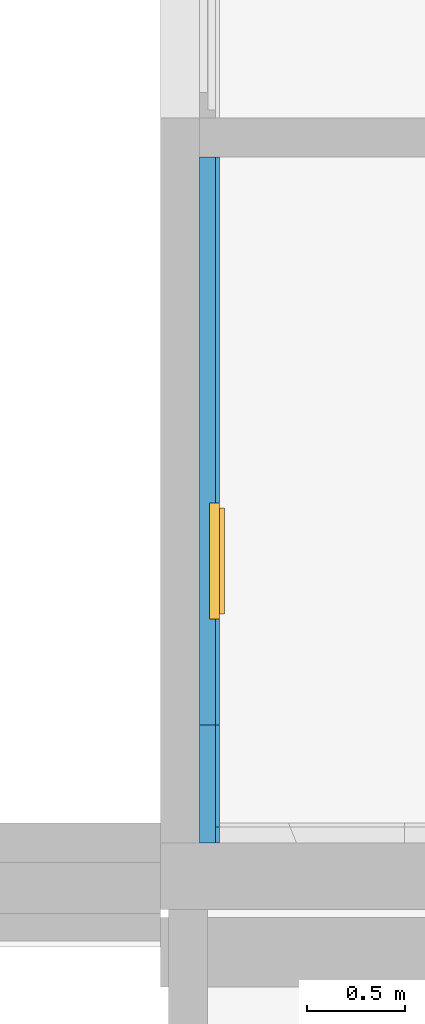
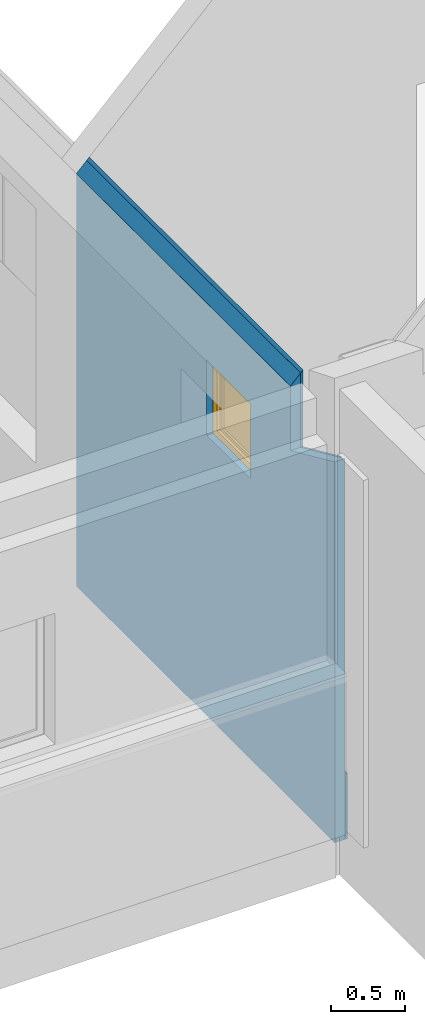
# One storey, part 27 of 34: 2 building element parts, 1 window, 1 opening, 1 element without a shape of its own.
"""IFC2X3 building model written with IfcOpenShell, lengths in metres."""

from ifc_helpers import new_model, entity, si_unit, converted_unit, derived_unit, money_unit, direction, frame, origin_with_axes, origin_2d_with_axis, place, context, subcontext, project, spatial, polyline, rectangle, outline, extrude, boolean, clip, bounded_halfspace, open_shell, faceted_brep, surface_model, material, type_object, element, fill, aggregate, save


model = new_model("IFC2X3")

# Units and contexts
model_context = context("Model", 3, precision=1e-05, world=origin_with_axes(), true_north=direction((0.0, 1.0)))
body_context = subcontext(model_context, "Body", "Model", "MODEL_VIEW")
ifc_project = project(units=[si_unit("LENGTHUNIT", "METRE"), si_unit("AREAUNIT", "SQUARE_METRE"), si_unit("VOLUMEUNIT", "CUBIC_METRE"), converted_unit("PLANEANGLEUNIT", "DEGREE", entity("IfcPlaneAngleMeasure", 0.0174532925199), si_unit("PLANEANGLEUNIT", "RADIAN"), dimensions=[0, 0, 0, 0, 0, 0, 0]), money_unit("CHF"), converted_unit("TIMEUNIT", "Year", entity("IfcTimeMeasure", 31556926.0), si_unit("TIMEUNIT", "SECOND"), dimensions=[0, 0, 1, 0, 0, 0, 0]), si_unit("MASSUNIT", "GRAM", prefix="KILO"), si_unit("THERMODYNAMICTEMPERATUREUNIT", "DEGREE_CELSIUS"), si_unit("LUMINOUSINTENSITYUNIT", "LUMEN"), si_unit("ENERGYUNIT", "JOULE", prefix="MEGA"), derived_unit("THERMALCONDUCTANCEUNIT", [(si_unit("POWERUNIT", "WATT"), 1), (si_unit("LENGTHUNIT", "METRE"), -1), (si_unit("THERMODYNAMICTEMPERATUREUNIT", "KELVIN"), -1)]), derived_unit("SPECIFICHEATCAPACITYUNIT", [(si_unit("ENERGYUNIT", "JOULE"), 1), (si_unit("MASSUNIT", "GRAM", prefix="KILO"), -1), (si_unit("THERMODYNAMICTEMPERATUREUNIT", "KELVIN"), -1)]), derived_unit("MASSDENSITYUNIT", [(si_unit("MASSUNIT", "GRAM", prefix="KILO"), 1), (si_unit("VOLUMEUNIT", "CUBIC_METRE"), -1)])], contexts=[model_context])

# Site, building, storey
site_placement = place(None, origin_with_axes())
site = spatial("IfcSite", under=ifc_project, at=site_placement, Name="Site", CompositionType="ELEMENT")
building_placement = place(site_placement, origin_with_axes())
building = spatial("IfcBuilding", under=site, at=building_placement, Name="Bâtiment", CompositionType="ELEMENT")
storey_placement = place(building_placement, origin_with_axes())
storey = spatial("IfcBuildingStorey", under=building, at=storey_placement, Name="RDC", CompositionType="ELEMENT", Elevation=-5.32907e-15)

# Window
window_style = type_object("IfcWindowStyle", Name="Fenêtre 25", ConstructionType="NOTDEFINED", OperationType="SINGLE_PANEL", ParameterTakesPrecedence=False, Sizeable=False)
wall_placement = place(storey_placement, frame((1692.13729001, 194.09004191, 0.0), z_axis=(0.0, 0.0, 1.0), x_axis=(0.0, -1.0, 0.0)))
opening_placement = place(wall_placement, frame((2.055, 0.0, 2.31), z_axis=(0.0, 0.0, 1.0), x_axis=(1.0, 0.0, 0.0)))
window_placement = place(opening_placement, frame((-0.295, 0.0, 0.0), z_axis=(0.0, 0.0, 1.0), x_axis=(1.0, 0.0, 0.0)))
window = element("IfcWindow", 1, at=window_placement, inside=storey, type_object=window_style, Name="Fen-010", OverallHeight=0.62, OverallWidth=0.59, context=body_context, shape_type="SurfaceModel", body=[
    faceted_brep([(0.565, 0.1, 0.57), (0.565, 0.075, 0.57), (0.54, 0.075, 0.57), (0.54, 0.05, 0.57), (0.59, 0.05, 0.57), (0.59, 0.1, 0.57), (0.565, 0.1, 0.05), (0.565, 0.075, 0.05), (0.54, 0.075, 0.05), (0.54, 0.05, 0.05), (0.59, 0.05, 0.05), (0.59, 0.1, 0.05)], [[[0, 1, 2, 3, 4, 5]], [[1, 0, 6, 7]], [[8, 2, 1, 7]], [[2, 8, 9, 3]], [[4, 3, 9, 10]], [[5, 4, 10, 11]], [[6, 0, 5, 11]], [[7, 6, 11, 10, 9, 8]]]),
    faceted_brep([(0.05, 0.075, 0.57), (0.025, 0.075, 0.57), (0.025, 0.1, 0.57), (0.0, 0.1, 0.57), (0.0, 0.05, 0.57), (0.05, 0.05, 0.57), (0.05, 0.075, 0.05), (0.025, 0.075, 0.05), (0.025, 0.1, 0.05), (0.0, 0.1, 0.05), (0.0, 0.05, 0.05), (0.05, 0.05, 0.05)], [[[0, 1, 2, 3, 4, 5]], [[1, 0, 6, 7]], [[8, 2, 1, 7]], [[2, 8, 9, 3]], [[9, 10, 4, 3]], [[10, 11, 5, 4]], [[6, 0, 5, 11]], [[7, 6, 11, 10, 9, 8]]]),
    faceted_brep([(0.05, 0.075, 0.05), (0.025, 0.075, 0.05), (0.025, 0.1, 0.05), (0.0, 0.1, 0.05), (0.0, 0.05, 0.05), (0.05, 0.05, 0.05), (0.54, 0.075, 0.05), (0.565, 0.075, 0.05), (0.565, 0.075, 0.025), (0.025, 0.075, 0.025), (0.025, 0.1, 0.025), (0.565, 0.1, 0.025), (0.565, 0.1, 0.05), (0.59, 0.1, 0.05), (0.59, 0.1, 0.0), (0.0, 0.1, 0.0), (0.0, 0.05, 0.0), (0.59, 0.05, 0.05), (0.54, 0.05, 0.05), (0.59, 0.05, 0.0)], [[[0, 1, 2, 3, 4, 5]], [[1, 0, 6, 7, 8, 9]], [[10, 2, 1, 9]], [[11, 12, 13, 14, 15, 3, 2, 10]], [[15, 16, 4, 3]], [[17, 18, 5, 4, 16, 19]], [[6, 0, 5, 18]], [[7, 6, 18, 17, 13, 12]], [[7, 12, 11, 8]], [[11, 10, 9, 8]], [[13, 17, 19, 14]], [[14, 19, 16, 15]]]),
    faceted_brep([(0.565, 0.1, 0.57), (0.565, 0.1, 0.595), (0.025, 0.1, 0.595), (0.025, 0.1, 0.57), (0.0, 0.1, 0.57), (0.0, 0.1, 0.62), (0.59, 0.1, 0.62), (0.59, 0.1, 0.57), (0.565, 0.075, 0.57), (0.565, 0.075, 0.595), (0.025, 0.075, 0.595), (0.025, 0.075, 0.57), (0.05, 0.075, 0.57), (0.05, 0.05, 0.57), (0.0, 0.05, 0.57), (0.0, 0.05, 0.62), (0.59, 0.05, 0.62), (0.59, 0.05, 0.57), (0.54, 0.05, 0.57), (0.54, 0.075, 0.57)], [[[0, 1, 2, 3, 4, 5, 6, 7]], [[1, 0, 8, 9]], [[2, 1, 9, 10]], [[3, 2, 10, 11]], [[11, 12, 13, 14, 4, 3]], [[4, 14, 15, 5]], [[5, 15, 16, 6]], [[6, 16, 17, 7]], [[8, 0, 7, 17, 18, 19]], [[12, 11, 10, 9, 8, 19]], [[12, 19, 18, 13]], [[14, 13, 18, 17, 16, 15]]]),
    faceted_brep([(0.515, 0.075, 0.545), (0.565, 0.075, 0.545), (0.565, 0.125, 0.545), (0.515, 0.125, 0.545), (0.515, 0.075, 0.075), (0.565, 0.075, 0.075), (0.565, 0.125, 0.075), (0.515, 0.125, 0.075)], [[[0, 1, 2, 3]], [[0, 4, 5, 1]], [[1, 5, 6, 2]], [[3, 2, 6, 7]], [[4, 0, 3, 7]], [[5, 4, 7, 6]]]),
    faceted_brep([(0.075, 0.075, 0.075), (0.025, 0.075, 0.075), (0.025, 0.125, 0.075), (0.075, 0.125, 0.075), (0.075, 0.075, 0.545), (0.025, 0.075, 0.545), (0.025, 0.125, 0.545), (0.075, 0.125, 0.545)], [[[0, 1, 2, 3]], [[0, 4, 5, 1]], [[1, 5, 6, 2]], [[3, 2, 6, 7]], [[4, 0, 3, 7]], [[5, 4, 7, 6]]]),
    faceted_brep([(0.025, 0.075, 0.025), (0.025, 0.075, 0.075), (0.025, 0.125, 0.075), (0.025, 0.125, 0.025), (0.565, 0.075, 0.025), (0.565, 0.075, 0.075), (0.515, 0.075, 0.075), (0.075, 0.075, 0.075), (0.075, 0.125, 0.075), (0.515, 0.125, 0.075), (0.565, 0.125, 0.075), (0.565, 0.125, 0.025)], [[[0, 1, 2, 3]], [[0, 4, 5, 6, 7, 1]], [[1, 7, 8, 2]], [[3, 2, 8, 9, 10, 11]], [[4, 0, 3, 11]], [[5, 4, 11, 10]], [[6, 5, 10, 9]], [[7, 6, 9, 8]]]),
    faceted_brep([(0.565, 0.075, 0.595), (0.565, 0.075, 0.545), (0.565, 0.125, 0.545), (0.565, 0.125, 0.595), (0.025, 0.075, 0.595), (0.025, 0.075, 0.545), (0.075, 0.075, 0.545), (0.515, 0.075, 0.545), (0.515, 0.125, 0.545), (0.075, 0.125, 0.545), (0.025, 0.125, 0.545), (0.025, 0.125, 0.595)], [[[0, 1, 2, 3]], [[0, 4, 5, 6, 7, 1]], [[1, 7, 8, 2]], [[3, 2, 8, 9, 10, 11]], [[4, 0, 3, 11]], [[5, 4, 11, 10]], [[6, 5, 10, 9]], [[7, 6, 9, 8]]]),
    surface_model("IfcShellBasedSurfaceModel", [(0.515, 0.09, 0.075), (0.515, 0.09, 0.545), (0.075, 0.09, 0.545), (0.075, 0.09, 0.075)], [open_shell([[[0, 1, 2, 3]]])]),
    surface_model("IfcShellBasedSurfaceModel", [(0.515, 0.11, 0.075), (0.075, 0.11, 0.075), (0.075, 0.11, 0.545), (0.515, 0.11, 0.545)], [open_shell([[[0, 1, 2, 3]]])]),
])

# Wall, opening
wall_type = type_object("IfcWallType", Name="DOUBLAGE ISO + BA13 10 CM  100", PredefinedType="NOTDEFINED")
wall = element("IfcWall", 2, at=wall_placement, inside=storey, type_object=wall_type, Name="Mur-005")
opening = element("IfcOpeningElement", 3, at=opening_placement, cuts=wall, Name="Fen-010", context=body_context, shape_type="SweptSolid", body=[
    extrude(rectangle(XDim=0.59, YDim=0.62, at=origin_2d_with_axis()), frame((0.0, -0.1, 0.31), z_axis=(0.0, -1.0, 0.0), x_axis=(-1.0, 0.0, 0.0)), (0.0, 0.0, -1.0), 0.3),
])

fill(opening, window)

# Building element part
ifc_material_1 = material(Name="Plâtre lissé 291446788")
building_element_part_1_placement = place(wall_placement, origin_with_axes())
building_element_part_1 = element("IfcBuildingElementPart", 4, at=building_element_part_1_placement, material=ifc_material_1, Name="Plâtre lissé 291446788", context=body_context, shape_type="CSG", body=[
    boolean("DIFFERENCE", boolean("DIFFERENCE", boolean("DIFFERENCE", clip(clip(extrude(outline(polyline([(0.0, 0.08), (3.49, 0.08), (3.49, 0.1), (0.0, 0.1), (0.0, 0.08)])), origin_with_axes(), (0.0, 0.0, 1.0), 4.0), bounded_halfspace(frame((-0.886795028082, 0.0, 2.2169875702), z_axis=(0.371390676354, 0.0, -0.928476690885), x_axis=(0.0, 1.0, 0.0)), True, origin_with_axes(), polyline([(3.09805462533, -0.01), (10.06501, -0.01), (10.06501, 0.11), (3.09805462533, 0.11), (3.09805462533, -0.01)]))), bounded_halfspace(frame((-0.586766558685, 0.0, 1.30378858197), z_axis=(0.410400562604, 0.0, -0.911905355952), x_axis=(0.0, 1.0, 0.0)), True, origin_with_axes(), polyline([(2.8900000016, -0.01), (10.626530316, -0.01), (10.626530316, 0.11), (2.8900000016, 0.11), (2.8900000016, -0.01)]))), faceted_brep([(3.41, 0.1, 0.74), (3.41, 0.1, 4.0), (3.49, 0.1, 4.0), (3.49, 0.1, 0.54), (0.0, 0.1, 0.54), (0.0, 0.1, 0.74), (3.41, 0.08, 4.0), (3.41, 0.08, 0.74), (3.49, 0.08, 4.0), (3.49, 0.08, 0.54), (0.0, 0.08, 0.54), (0.0, 0.08, 0.74)], [[[0, 1, 2, 3, 4, 5]], [[6, 1, 0, 7]], [[1, 6, 8, 2]], [[9, 3, 2, 8]], [[10, 4, 3, 9]], [[11, 5, 4, 10]], [[0, 5, 11, 7]], [[7, 11, 10, 9, 8, 6]]])), faceted_brep([(3.38070755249, 0.1, 4.0), (3.38070755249, 0.1, 3.50000002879), (0.0, 0.1, 3.50000002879), (0.0, 0.1, 4.0), (3.38070755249, 0.08, 4.0), (3.38070755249, 0.08, 3.48000002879), (0.0, 0.08, 3.48000002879), (0.0, 0.08, 4.0)], [[[0, 1, 2, 3]], [[1, 0, 4, 5]], [[6, 2, 1, 5]], [[2, 6, 7, 3]], [[4, 0, 3, 7]], [[5, 4, 7, 6]]])), faceted_brep([(3.38070755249, 0.08, 4.0), (3.38070755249, 0.08, 3.48000002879), (0.0, 0.08, 3.48000002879), (0.0, 0.08, 4.0), (3.38070755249, 0.0, 4.0), (3.38070755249, 0.0, 3.40000002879), (0.0, 0.0, 3.40000002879), (0.0, 0.0, 4.0)], [[[0, 1, 2, 3]], [[1, 0, 4, 5]], [[6, 2, 1, 5]], [[2, 6, 7, 3]], [[4, 0, 3, 7]], [[5, 4, 7, 6]]])),
])

ifc_material_2 = material(Name="Isolation laine de pierre 378182646")
building_element_part_2_placement = place(wall_placement, origin_with_axes())
building_element_part_2 = element("IfcBuildingElementPart", 5, at=building_element_part_2_placement, material=ifc_material_2, Name="Isolation laine de pierre 378182646", context=body_context, shape_type="CSG", body=[
    boolean("DIFFERENCE", boolean("DIFFERENCE", boolean("DIFFERENCE", clip(clip(extrude(outline(polyline([(0.0, 0.0), (3.49, 0.0), (3.49, 0.08), (0.0, 0.08), (0.0, 0.0)])), origin_with_axes(), (0.0, 0.0, 1.0), 4.0), bounded_halfspace(frame((-0.886795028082, 0.0, 2.2169875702), z_axis=(0.371390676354, 0.0, -0.928476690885), x_axis=(0.0, 1.0, 0.0)), True, origin_with_axes(), polyline([(3.09805462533, -0.01), (10.06501, -0.01), (10.06501, 0.11), (3.09805462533, 0.11), (3.09805462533, -0.01)]))), bounded_halfspace(frame((-0.586766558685, 0.0, 1.30378858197), z_axis=(0.410400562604, 0.0, -0.911905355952), x_axis=(0.0, 1.0, 0.0)), True, origin_with_axes(), polyline([(2.8900000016, -0.01), (10.626530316, -0.01), (10.626530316, 0.11), (2.8900000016, 0.11), (2.8900000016, -0.01)]))), faceted_brep([(3.41, 0.1, 0.74), (3.41, 0.1, 4.0), (3.49, 0.1, 4.0), (3.49, 0.1, 0.54), (0.0, 0.1, 0.54), (0.0, 0.1, 0.74), (3.41, 0.08, 4.0), (3.41, 0.08, 0.74), (3.49, 0.08, 4.0), (3.49, 0.08, 0.54), (0.0, 0.08, 0.54), (0.0, 0.08, 0.74)], [[[0, 1, 2, 3, 4, 5]], [[6, 1, 0, 7]], [[1, 6, 8, 2]], [[9, 3, 2, 8]], [[10, 4, 3, 9]], [[11, 5, 4, 10]], [[0, 5, 11, 7]], [[7, 11, 10, 9, 8, 6]]])), faceted_brep([(3.38070755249, 0.1, 4.0), (3.38070755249, 0.1, 3.50000002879), (0.0, 0.1, 3.50000002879), (0.0, 0.1, 4.0), (3.38070755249, 0.08, 4.0), (3.38070755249, 0.08, 3.48000002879), (0.0, 0.08, 3.48000002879), (0.0, 0.08, 4.0)], [[[0, 1, 2, 3]], [[1, 0, 4, 5]], [[6, 2, 1, 5]], [[2, 6, 7, 3]], [[4, 0, 3, 7]], [[5, 4, 7, 6]]])), faceted_brep([(3.38070755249, 0.08, 4.0), (3.38070755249, 0.08, 3.48000002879), (0.0, 0.08, 3.48000002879), (0.0, 0.08, 4.0), (3.38070755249, 0.0, 4.0), (3.38070755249, 0.0, 3.40000002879), (0.0, 0.0, 3.40000002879), (0.0, 0.0, 4.0)], [[[0, 1, 2, 3]], [[1, 0, 4, 5]], [[6, 2, 1, 5]], [[2, 6, 7, 3]], [[4, 0, 3, 7]], [[5, 4, 7, 6]]])),
])

aggregate(wall, [building_element_part_1, building_element_part_2])

save(model, "model.ifc")
